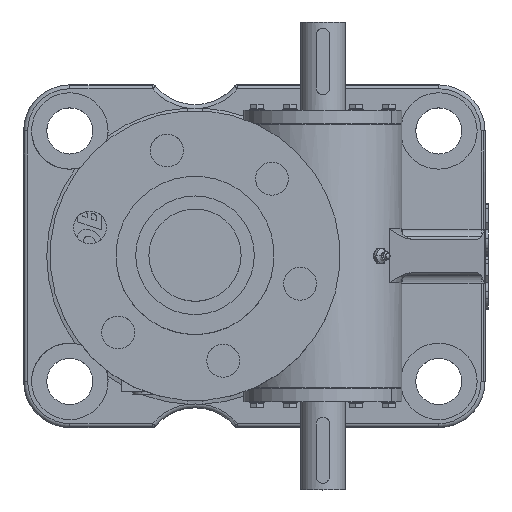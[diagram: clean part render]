
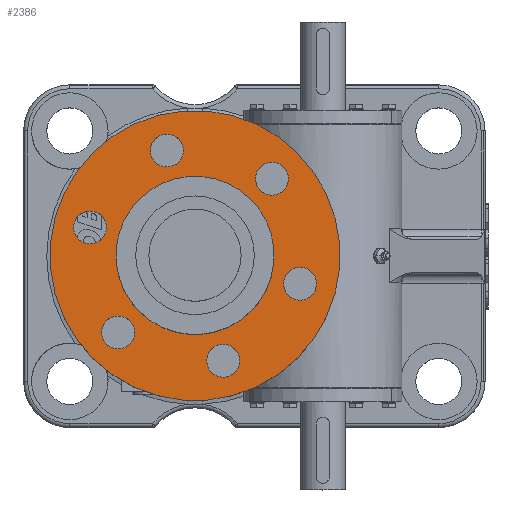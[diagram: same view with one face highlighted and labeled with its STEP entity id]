
A CAD part, top view. The second image highlights one B-rep face of the part: STEP entity #2386.
In plain terms, the highlighted planar face has unit normal (0, 0, 1).
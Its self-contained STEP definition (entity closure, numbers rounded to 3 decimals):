
#2386=ADVANCED_FACE('',(#7088,#7089,#7090,#7091,#7092,#7093,#7094,#7095),#7096,.T.);
#7088=FACE_BOUND('',#13678,.T.);
#7089=FACE_BOUND('',#13679,.T.);
#7090=FACE_BOUND('',#13680,.T.);
#7091=FACE_BOUND('',#13681,.T.);
#7092=FACE_BOUND('',#13682,.T.);
#7093=FACE_BOUND('',#13683,.T.);
#7094=FACE_OUTER_BOUND('',#13684,.T.);
#7095=FACE_BOUND('',#13685,.T.);
#7096=PLANE('',#13686);
#13678=EDGE_LOOP('',(#32448,#32449));
#13679=EDGE_LOOP('',(#32450,#32451));
#13680=EDGE_LOOP('',(#32452,#32453));
#13681=EDGE_LOOP('',(#32454,#32455));
#13682=EDGE_LOOP('',(#32456,#32457));
#13683=EDGE_LOOP('',(#32458,#32459));
#13684=EDGE_LOOP('',(#32460,#32461));
#13685=EDGE_LOOP('',(#32462,#32463));
#13686=AXIS2_PLACEMENT_3D('',#32464,#32465,#32466);
#32448=ORIENTED_EDGE('',*,*,#38754,.T.);
#32449=ORIENTED_EDGE('',*,*,#38750,.T.);
#32450=ORIENTED_EDGE('',*,*,#38756,.T.);
#32451=ORIENTED_EDGE('',*,*,#38746,.T.);
#32452=ORIENTED_EDGE('',*,*,#38758,.T.);
#32453=ORIENTED_EDGE('',*,*,#38742,.T.);
#32454=ORIENTED_EDGE('',*,*,#38760,.T.);
#32455=ORIENTED_EDGE('',*,*,#38738,.T.);
#32456=ORIENTED_EDGE('',*,*,#38762,.T.);
#32457=ORIENTED_EDGE('',*,*,#38734,.T.);
#32458=ORIENTED_EDGE('',*,*,#38764,.T.);
#32459=ORIENTED_EDGE('',*,*,#38730,.T.);
#32460=ORIENTED_EDGE('',*,*,#38728,.T.);
#32461=ORIENTED_EDGE('',*,*,#38765,.T.);
#32462=ORIENTED_EDGE('',*,*,#38766,.F.);
#32463=ORIENTED_EDGE('',*,*,#38722,.F.);
#32464=CARTESIAN_POINT('',(0.0,0.0,286.));
#32465=DIRECTION('',(0.0,-0.0,1.0));
#32466=DIRECTION('',(0.707,0.707,0.0));
#38722=EDGE_CURVE('',#48915,#48918,#48919,.T.);
#38728=EDGE_CURVE('',#48924,#48928,#48930,.T.);
#38730=EDGE_CURVE('',#48934,#48931,#48935,.T.);
#38734=EDGE_CURVE('',#48942,#48939,#48943,.T.);
#38738=EDGE_CURVE('',#48950,#48947,#48951,.T.);
#38742=EDGE_CURVE('',#48958,#48955,#48959,.T.);
#38746=EDGE_CURVE('',#48966,#48963,#48967,.T.);
#38750=EDGE_CURVE('',#48974,#48971,#48975,.T.);
#38754=EDGE_CURVE('',#48971,#48974,#48980,.T.);
#38756=EDGE_CURVE('',#48963,#48966,#48982,.T.);
#38758=EDGE_CURVE('',#48955,#48958,#48984,.T.);
#38760=EDGE_CURVE('',#48947,#48950,#48986,.T.);
#38762=EDGE_CURVE('',#48939,#48942,#48988,.T.);
#38764=EDGE_CURVE('',#48931,#48934,#48990,.T.);
#38765=EDGE_CURVE('',#48928,#48924,#48991,.T.);
#38766=EDGE_CURVE('',#48918,#48915,#48992,.T.);
#48915=VERTEX_POINT('',#64898);
#48918=VERTEX_POINT('',#64902);
#48919=CIRCLE('',#64903,60.);
#48924=VERTEX_POINT('',#64909);
#48928=VERTEX_POINT('',#64914);
#48930=CIRCLE('',#64917,110.);
#48931=VERTEX_POINT('',#64918);
#48934=VERTEX_POINT('',#64922);
#48935=CIRCLE('',#64923,12.5);
#48939=VERTEX_POINT('',#64928);
#48942=VERTEX_POINT('',#64932);
#48943=CIRCLE('',#64933,12.5);
#48947=VERTEX_POINT('',#64938);
#48950=VERTEX_POINT('',#64942);
#48951=CIRCLE('',#64943,12.5);
#48955=VERTEX_POINT('',#64948);
#48958=VERTEX_POINT('',#64952);
#48959=CIRCLE('',#64953,12.5);
#48963=VERTEX_POINT('',#64958);
#48966=VERTEX_POINT('',#64962);
#48967=CIRCLE('',#64963,12.5);
#48971=VERTEX_POINT('',#64968);
#48974=VERTEX_POINT('',#64972);
#48975=CIRCLE('',#64973,12.5);
#48980=CIRCLE('',#64979,12.5);
#48982=CIRCLE('',#64981,12.5);
#48984=CIRCLE('',#64983,12.5);
#48986=CIRCLE('',#64985,12.5);
#48988=CIRCLE('',#64987,12.5);
#48990=CIRCLE('',#64989,12.5);
#48991=CIRCLE('',#64990,110.);
#48992=CIRCLE('',#64991,60.);
#64898=CARTESIAN_POINT('',(42.426,42.426,286.));
#64902=CARTESIAN_POINT('',(-42.426,-42.426,286.));
#64903=AXIS2_PLACEMENT_3D('',#77352,#77353,#77354);
#64909=CARTESIAN_POINT('',(77.782,77.782,286.));
#64914=CARTESIAN_POINT('',(-77.782,-77.782,286.));
#64917=AXIS2_PLACEMENT_3D('',#77364,#77365,#77366);
#64918=CARTESIAN_POINT('',(67.175,67.175,286.));
#64922=CARTESIAN_POINT('',(49.497,49.497,286.));
#64923=AXIS2_PLACEMENT_3D('',#77368,#77369,#77370);
#64928=CARTESIAN_POINT('',(-24.588,91.763,286.));
#64932=CARTESIAN_POINT('',(-18.117,67.615,286.));
#64933=AXIS2_PLACEMENT_3D('',#77376,#77377,#77378);
#64938=CARTESIAN_POINT('',(-91.763,24.588,286.));
#64942=CARTESIAN_POINT('',(-67.615,18.117,286.));
#64943=AXIS2_PLACEMENT_3D('',#77384,#77385,#77386);
#64948=CARTESIAN_POINT('',(-67.175,-67.175,286.));
#64952=CARTESIAN_POINT('',(-49.497,-49.497,286.));
#64953=AXIS2_PLACEMENT_3D('',#77392,#77393,#77394);
#64958=CARTESIAN_POINT('',(24.588,-91.763,286.));
#64962=CARTESIAN_POINT('',(18.117,-67.615,286.));
#64963=AXIS2_PLACEMENT_3D('',#77400,#77401,#77402);
#64968=CARTESIAN_POINT('',(91.763,-24.588,286.));
#64972=CARTESIAN_POINT('',(67.615,-18.117,286.));
#64973=AXIS2_PLACEMENT_3D('',#77408,#77409,#77410);
#64979=AXIS2_PLACEMENT_3D('',#77418,#77419,#77420);
#64981=AXIS2_PLACEMENT_3D('',#77424,#77425,#77426);
#64983=AXIS2_PLACEMENT_3D('',#77430,#77431,#77432);
#64985=AXIS2_PLACEMENT_3D('',#77436,#77437,#77438);
#64987=AXIS2_PLACEMENT_3D('',#77442,#77443,#77444);
#64989=AXIS2_PLACEMENT_3D('',#77448,#77449,#77450);
#64990=AXIS2_PLACEMENT_3D('',#77451,#77452,#77453);
#64991=AXIS2_PLACEMENT_3D('',#77454,#77455,#77456);
#77352=CARTESIAN_POINT('',(0.0,0.0,286.));
#77353=DIRECTION('',(0.0,-0.0,1.0));
#77354=DIRECTION('',(0.707,0.707,0.0));
#77364=CARTESIAN_POINT('',(0.0,0.0,286.));
#77365=DIRECTION('',(0.0,-0.0,1.0));
#77366=DIRECTION('',(0.707,0.707,0.0));
#77368=CARTESIAN_POINT('',(58.336,58.336,286.));
#77369=DIRECTION('',(0.0,0.0,-1.0));
#77370=DIRECTION('',(0.707,0.707,0.0));
#77376=CARTESIAN_POINT('',(-21.353,79.689,286.));
#77377=DIRECTION('',(-0.0,0.0,-1.0));
#77378=DIRECTION('',(-0.259,0.966,0.0));
#77384=CARTESIAN_POINT('',(-79.689,21.353,286.));
#77385=DIRECTION('',(-0.0,0.0,-1.0));
#77386=DIRECTION('',(-0.966,0.259,0.0));
#77392=CARTESIAN_POINT('',(-58.336,-58.336,286.));
#77393=DIRECTION('',(-0.0,0.0,-1.0));
#77394=DIRECTION('',(-0.707,-0.707,0.0));
#77400=CARTESIAN_POINT('',(21.353,-79.689,286.));
#77401=DIRECTION('',(0.0,-0.0,-1.0));
#77402=DIRECTION('',(0.259,-0.966,0.0));
#77408=CARTESIAN_POINT('',(79.689,-21.353,286.));
#77409=DIRECTION('',(0.0,-0.0,-1.0));
#77410=DIRECTION('',(0.966,-0.259,0.0));
#77418=CARTESIAN_POINT('',(79.689,-21.353,286.));
#77419=DIRECTION('',(0.0,-0.0,-1.0));
#77420=DIRECTION('',(0.966,-0.259,0.0));
#77424=CARTESIAN_POINT('',(21.353,-79.689,286.));
#77425=DIRECTION('',(0.0,-0.0,-1.0));
#77426=DIRECTION('',(0.259,-0.966,0.0));
#77430=CARTESIAN_POINT('',(-58.336,-58.336,286.));
#77431=DIRECTION('',(-0.0,0.0,-1.0));
#77432=DIRECTION('',(-0.707,-0.707,0.0));
#77436=CARTESIAN_POINT('',(-79.689,21.353,286.));
#77437=DIRECTION('',(-0.0,0.0,-1.0));
#77438=DIRECTION('',(-0.966,0.259,0.0));
#77442=CARTESIAN_POINT('',(-21.353,79.689,286.));
#77443=DIRECTION('',(-0.0,0.0,-1.0));
#77444=DIRECTION('',(-0.259,0.966,0.0));
#77448=CARTESIAN_POINT('',(58.336,58.336,286.));
#77449=DIRECTION('',(0.0,0.0,-1.0));
#77450=DIRECTION('',(0.707,0.707,0.0));
#77451=CARTESIAN_POINT('',(0.0,0.0,286.));
#77452=DIRECTION('',(0.0,-0.0,1.0));
#77453=DIRECTION('',(0.707,0.707,0.0));
#77454=CARTESIAN_POINT('',(0.0,0.0,286.));
#77455=DIRECTION('',(0.0,-0.0,1.0));
#77456=DIRECTION('',(0.707,0.707,0.0));
